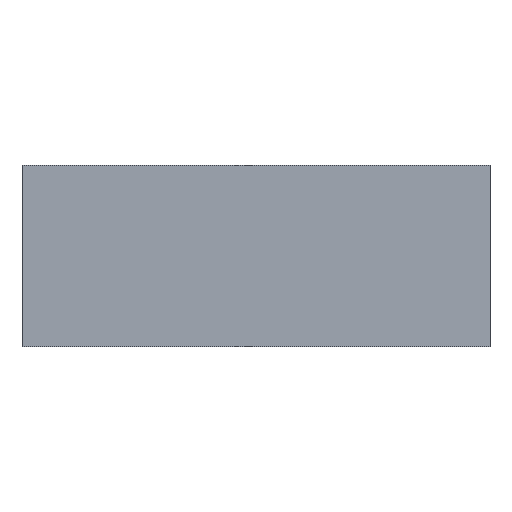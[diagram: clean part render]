
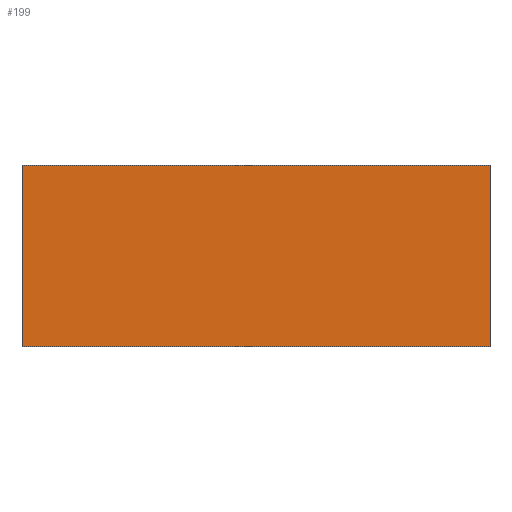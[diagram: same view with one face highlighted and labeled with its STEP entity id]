
A CAD part, top view. The second image highlights one B-rep face of the part: STEP entity #199.
In plain terms, the highlighted planar face has unit normal (0, 0, 1).
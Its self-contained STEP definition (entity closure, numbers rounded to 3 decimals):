
#15 = CARTESIAN_POINT ( 'NONE',  ( -554., 0., 6. ) ) ;
#20 = CARTESIAN_POINT ( 'NONE',  ( 554., 0., 6. ) ) ;
#22 = CARTESIAN_POINT ( 'NONE',  ( -554., 0., 6. ) ) ;
#30 = VERTEX_POINT ( 'NONE', #99 ) ;
#54 = DIRECTION ( 'NONE',  ( 0., 1., 0. ) ) ;
#55 = DIRECTION ( 'NONE',  ( 0., 0., -1. ) ) ;
#61 = CARTESIAN_POINT ( 'NONE',  ( -554., 429., 6. ) ) ;
#65 = PLANE ( 'NONE',  #103 ) ;
#74 = DIRECTION ( 'NONE',  ( -1., 0., 0. ) ) ;
#75 = CARTESIAN_POINT ( 'NONE',  ( -554., 429., 6. ) ) ;
#82 = DIRECTION ( 'NONE',  ( 0., 1., 0. ) ) ;
#83 = CARTESIAN_POINT ( 'NONE',  ( 554., 0., 6. ) ) ;
#88 = VERTEX_POINT ( 'NONE', #97 ) ;
#89 = DIRECTION ( 'NONE',  ( 1., 0., 0. ) ) ;
#92 = VERTEX_POINT ( 'NONE', #22 ) ;
#94 = VERTEX_POINT ( 'NONE', #20 ) ;
#97 = CARTESIAN_POINT ( 'NONE',  ( -554., 429., 6. ) ) ;
#98 = DIRECTION ( 'NONE',  ( 0., -1., 0. ) ) ;
#99 = CARTESIAN_POINT ( 'NONE',  ( 554., 429., 6. ) ) ;
#102 = CARTESIAN_POINT ( 'NONE',  ( -554., 0., 6. ) ) ;
#103 = AXIS2_PLACEMENT_3D ( 'NONE', #61, #55, #54 ) ;
#109 = EDGE_CURVE ( 'NONE', #88, #92, #181, .T. ) ;
#111 = EDGE_CURVE ( 'NONE', #92, #94, #144, .T. ) ;
#112 = EDGE_CURVE ( 'NONE', #94, #30, #133, .T. ) ;
#116 = EDGE_CURVE ( 'NONE', #30, #88, #148, .T. ) ;
#132 = ORIENTED_EDGE ( 'NONE', *, *, #116, .T. ) ;
#133 = LINE ( 'NONE', #83, #140 ) ;
#137 = VECTOR ( 'NONE', #89, 1000. ) ;
#140 = VECTOR ( 'NONE', #82, 1000. ) ;
#144 = LINE ( 'NONE', #15, #137 ) ;
#148 = LINE ( 'NONE', #75, #153 ) ;
#149 = ORIENTED_EDGE ( 'NONE', *, *, #111, .T. ) ;
#151 = VECTOR ( 'NONE', #98, 1000. ) ;
#153 = VECTOR ( 'NONE', #74, 1000. ) ;
#156 = ORIENTED_EDGE ( 'NONE', *, *, #112, .T. ) ;
#165 = ORIENTED_EDGE ( 'NONE', *, *, #109, .T. ) ;
#180 = EDGE_LOOP ( 'NONE', ( #165, #149, #156, #132 ) ) ;
#181 = LINE ( 'NONE', #102, #151 ) ;
#183 = FACE_OUTER_BOUND ( 'NONE', #180, .T. ) ;
#199 = ADVANCED_FACE ( 'NONE', ( #183 ), #65, .F. ) ;
